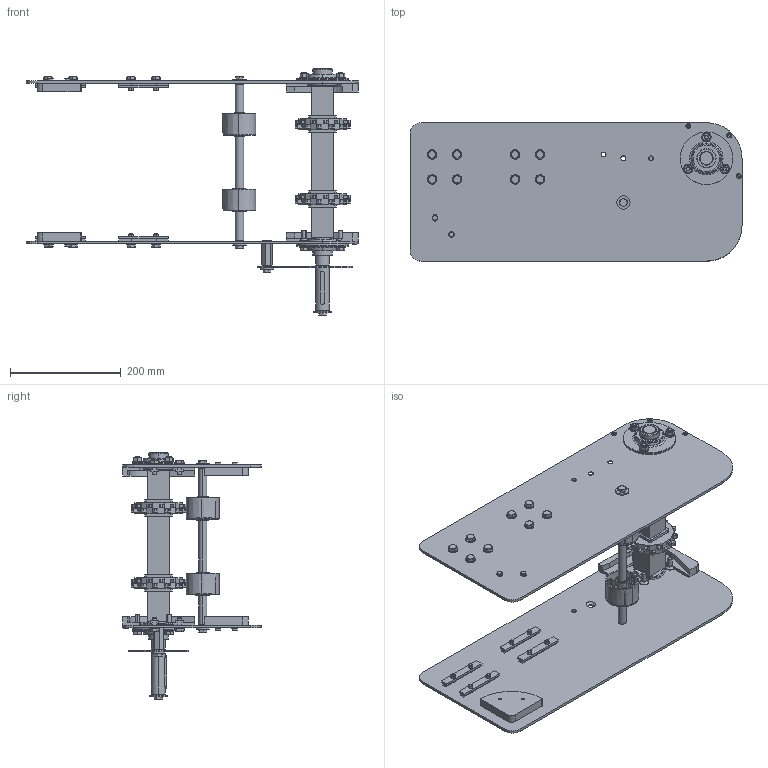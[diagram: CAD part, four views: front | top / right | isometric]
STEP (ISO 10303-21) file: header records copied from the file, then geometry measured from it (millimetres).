
FILE_DESCRIPTION (( 'STEP AP203' ), '1' );
FILE_NAME ('3000.250.149.STEP', '2018-02-28T10:49:15', ( 'Localadmin' ), ( 'Microsoft' ), 'SwSTEP 2.0', 'SolidWorks 2016', '' );
FILE_SCHEMA (( 'CONFIG_CONTROL_DESIGN' ));
Length unit declared in the file: millimetre
Products named in the file (29): 3000.000.006; RONDELLE UNI 6592 INOX_5.3x10 UNI 6592 INOX; RONDELLE UNI 6592 INOX_8.4x18 UNI 6592 INOX; 084.808.004; 3000.000.007; VITI TE UNI 5739 INOX_M5x20 UNI 5739 INOX; DADI ESAGONALI NORMALI UNI 5588 INOX_M8 UNI 558 INOX; 084.802.045; 084.307.005; circlip for shafts normal_din_Circlip DIN 471 - 16 x 1; VITI TE UNI 5739 INOX_M8x20 UNI 5739 INOX; Copia di Parte4^3000.250.149; 3000.250.149; RONDELLE FASCIA LARGA UNI 6593 INOX_8.4x24 UNI 6593 INOX; 3000.000.001; SBPF 205; 3000.000.002; RONDELLE FASCIA LARGA UNI 6593 INOX_8.4x32 UNI 6593 INOX; circlip for shafts normal_din_Circlip DIN 471 - 8 x 0.8; 3000.250.001; RONDELLE FASCIA LARGA UNI 6593_8.4x24 UNI 6593; M25S1240Q6; 3000.250.002; VITI TE UNI 5739_M8x16 UNI 5739; 251-82205; 3000.000.005; VITI TSEI UNI 5933 INOX_0412UNI5933A2; VITI TSEI UNI 5933 INOX_0820UNI5933A2; CHIAVETTE_A 8x7x60 UNI 6604-69
Assembly tree (108 placements, depth 2):
  3000.250.149
    3000.000.001
    3000.000.002
    3000.250.001
    3000.250.002
    3000.000.005  x2
    3000.000.006
    3000.000.007
    084.307.005  x8
    CHIAVETTE_A 8x7x60 UNI 6604-69
    084.808.004
    084.802.045
    Copia di Parte4^3000.250.149
    SBPF 205  x2
    circlip for shafts normal_din_Circlip DIN 471 - 8 x 0.8  x5
    M25S1240Q6  x2
    251-82205  x2
    VITI TSEI UNI 5933 INOX_0820UNI5933A2  x7
    RONDELLE UNI 6592 INOX_8.4x18 UNI 6592 INOX  x22
    DADI ESAGONALI NORMALI UNI 5588 INOX_M8 UNI 558 INOX  x6
    VITI TE UNI 5739 INOX_M8x20 UNI 5739 INOX  x19
    RONDELLE FASCIA LARGA UNI 6593 INOX_8.4x24 UNI 6593 INOX  x2
    RONDELLE FASCIA LARGA UNI 6593 INOX_8.4x32 UNI 6593 INOX
    RONDELLE FASCIA LARGA UNI 6593_8.4x24 UNI 6593
    VITI TE UNI 5739_M8x16 UNI 5739
    VITI TSEI UNI 5933 INOX_0412UNI5933A2  x6
    RONDELLE UNI 6592 INOX_5.3x10 UNI 6592 INOX  x4
    VITI TE UNI 5739 INOX_M5x20 UNI 5739 INOX  x4
    circlip for shafts normal_din_Circlip DIN 471 - 16 x 1  x4
Bounding box: 600 x 250 x 446.33 mm (x, y, z)
Volume: 2807887 mm3; surface area: 1043581.3 mm2
Topology: 160 solids, 160 shells, 2586 faces, 6168 edges, 3951 vertices
Faces by surface type: plane 1310, cylinder 772, cone 432, bspline 36, sphere 20, torus 16
Entity records: 36482 total; most frequent: CARTESIAN_POINT 6408, DIRECTION 5412, ORIENTED_EDGE 4922, EDGE_CURVE 2461, AXIS2_PLACEMENT_3D 2010, VERTEX_POINT 1598, LINE 1392, VECTOR 1392
